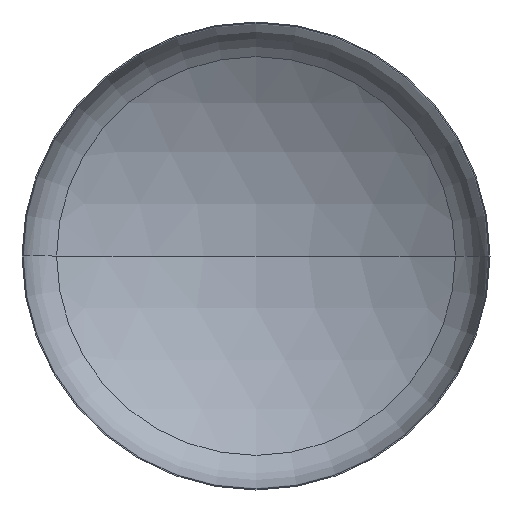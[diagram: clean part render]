
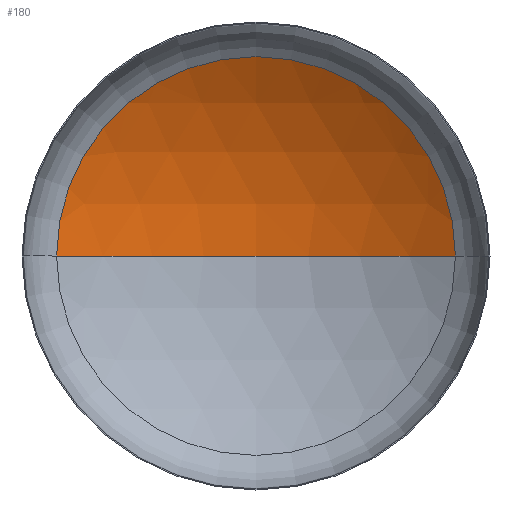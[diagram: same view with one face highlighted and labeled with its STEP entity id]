
A CAD part, front view. The second image highlights one B-rep face of the part: STEP entity #180.
In plain terms, the highlighted spherical face has radius 4400 mm.
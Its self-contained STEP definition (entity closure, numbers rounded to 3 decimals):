
#13 = DIRECTION ( 'NONE',  ( 1., 0., 0. ) ) ;
#28 = CARTESIAN_POINT ( 'NONE',  ( 0., 755.239, 0. ) ) ;
#34 = CARTESIAN_POINT ( 'NONE',  ( 0., -2969.082, 0. ) ) ;
#37 = AXIS2_PLACEMENT_3D ( 'NONE', #34, #205, #78 ) ;
#38 = AXIS2_PLACEMENT_3D ( 'NONE', #391, #208, #13 ) ;
#41 = AXIS2_PLACEMENT_3D ( 'NONE', #236, #45, #265 ) ;
#44 = AXIS2_PLACEMENT_3D ( 'NONE', #28, #187, #129 ) ;
#45 = DIRECTION ( 'NONE',  ( 0., 0., -1. ) ) ;
#46 = FACE_OUTER_BOUND ( 'NONE', #258, .T. ) ;
#60 = VERTEX_POINT ( 'NONE', #275 ) ;
#78 = DIRECTION ( 'NONE',  ( -1., 0., 0. ) ) ;
#100 = VERTEX_POINT ( 'NONE', #299 ) ;
#129 = DIRECTION ( 'NONE',  ( 1., 0., 0. ) ) ;
#131 = CIRCLE ( 'NONE', #41, 4400. ) ;
#171 = EDGE_CURVE ( 'NONE', #224, #100, #289, .T. ) ;
#174 = EDGE_CURVE ( 'NONE', #60, #224, #131, .T. ) ;
#180 = ADVANCED_FACE ( 'NONE', ( #46 ), #373, .F. ) ;
#181 = EDGE_CURVE ( 'NONE', #60, #100, #206, .T. ) ;
#187 = DIRECTION ( 'NONE',  ( 0., -1., 0. ) ) ;
#205 = DIRECTION ( 'NONE',  ( 0., 0., -1. ) ) ;
#206 = CIRCLE ( 'NONE', #38, 4400. ) ;
#208 = DIRECTION ( 'NONE',  ( 0., 0., 1. ) ) ;
#224 = VERTEX_POINT ( 'NONE', #363 ) ;
#230 = ORIENTED_EDGE ( 'NONE', *, *, #174, .T. ) ;
#236 = CARTESIAN_POINT ( 'NONE',  ( 0., -2969.082, 0. ) ) ;
#258 = EDGE_LOOP ( 'NONE', ( #328, #230, #276 ) ) ;
#265 = DIRECTION ( 'NONE',  ( -1., 0., 0. ) ) ;
#275 = CARTESIAN_POINT ( 'NONE',  ( 0., 1430.918, 0. ) ) ;
#276 = ORIENTED_EDGE ( 'NONE', *, *, #171, .T. ) ;
#289 = CIRCLE ( 'NONE', #44, 2342.954 ) ;
#299 = CARTESIAN_POINT ( 'NONE',  ( -2342.954, 755.239, 0. ) ) ;
#328 = ORIENTED_EDGE ( 'NONE', *, *, #181, .F. ) ;
#363 = CARTESIAN_POINT ( 'NONE',  ( 2342.954, 755.239, 0. ) ) ;
#373 = SPHERICAL_SURFACE ( 'NONE', #37, 4400. ) ;
#391 = CARTESIAN_POINT ( 'NONE',  ( 0., -2969.082, 0. ) ) ;
